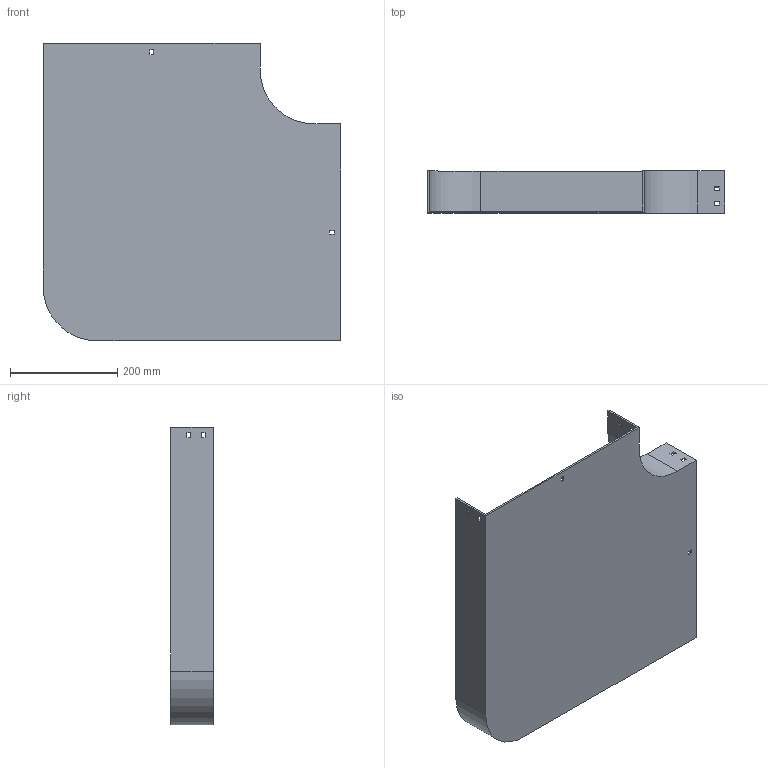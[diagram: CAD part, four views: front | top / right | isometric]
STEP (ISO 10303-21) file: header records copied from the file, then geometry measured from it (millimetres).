
FILE_DESCRIPTION (( 'STEP AP214' ), '1' );
FILE_NAME ('10B1C400.step', '2025-02-21T09:41:44', ( '' ), ( '' ), 'SwSTEP 2.0', 'SolidWorks 2023', '' );
FILE_SCHEMA (( 'AUTOMOTIVE_DESIGN' ));
Length unit declared in the file: millimetre
Products named in the file (1): 10B1C400
Bounding box: 554 x 79 x 554 mm (x, y, z)
Volume: 1342467.1 mm3; surface area: 776805.6 mm2
Topology: 1 solids, 1 shells, 58 faces, 168 edges, 112 vertices
Faces by surface type: plane 54, cylinder 4
Entity records: 1943 total; most frequent: CARTESIAN_POINT 339, ORIENTED_EDGE 336, DIRECTION 294, EDGE_CURVE 168, VECTOR 160, LINE 160, VERTEX_POINT 112, EDGE_LOOP 78
